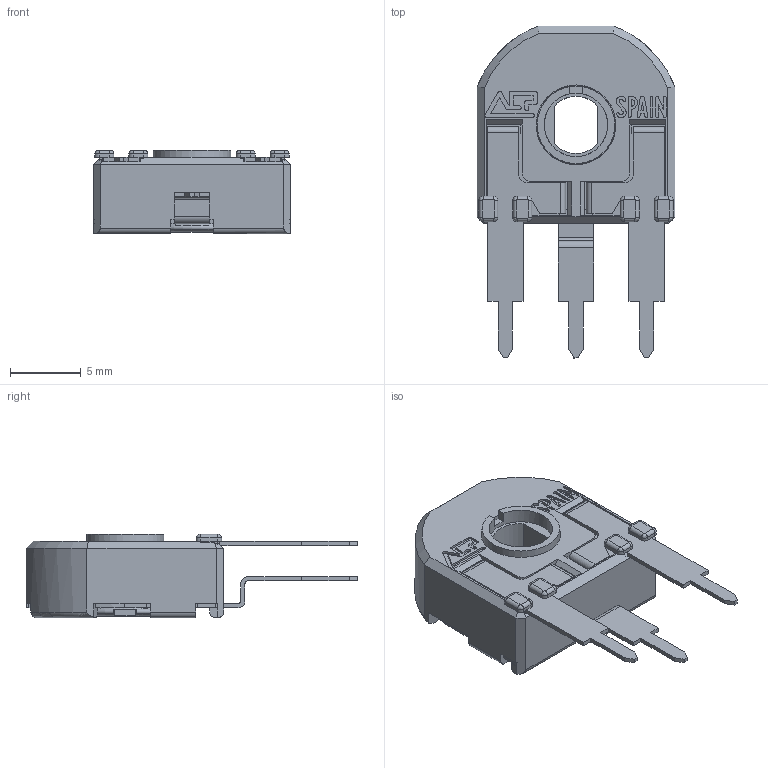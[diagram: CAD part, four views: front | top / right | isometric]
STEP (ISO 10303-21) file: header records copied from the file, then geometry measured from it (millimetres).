
FILE_DESCRIPTION(/* description */ (''),/* implementation_level */ '2;1');
FILE_NAME(/* name */ 'C:\Users\CEM\Desktop\ENVIAR\TRANSICION 3D CATALOGOS\CAR14ZHA2,5.stp',/* time_stamp */ '2025-09-22T10:00:48+02:00',/* author */ ('CEM'),/* organization */ (''),/* preprocessor_version */ 'ST-DEVELOPER v17',/* originating_system */ 'Autodesk Inventor 2018',/* authorisation */ '');
FILE_SCHEMA (('AUTOMOTIVE_DESIGN { 1 0 10303 214 3 1 1 }'));
Length unit declared in the file: millimetre
Products named in the file (1): CAR14ZHA2,5
Bounding box: 14 x 23.5 x 5.9 mm (x, y, z)
Volume: 550.9 mm3; surface area: 1568.1 mm2
Topology: 1 solids, 1 shells, 577 faces, 1682 edges, 1077 vertices
Faces by surface type: plane 394, cylinder 140, bspline 20, cone 14, torus 9
Full cylindrical faces by diameter (mm): 1.2 x2, 4.5 x1, 5.5 x1, 5.65 x1, 6.88 x1
Entity records: 19786 total; most frequent: CARTESIAN_POINT 3661, ORIENTED_EDGE 3364, DIRECTION 3161, EDGE_CURVE 1682, LINE 1243, VECTOR 1243, VERTEX_POINT 1077, AXIS2_PLACEMENT_3D 959
